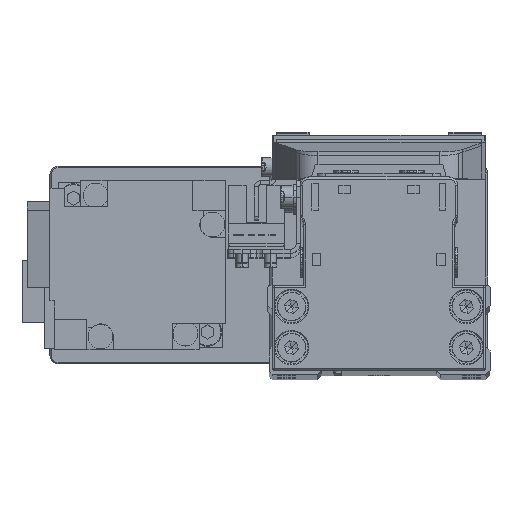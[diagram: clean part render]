
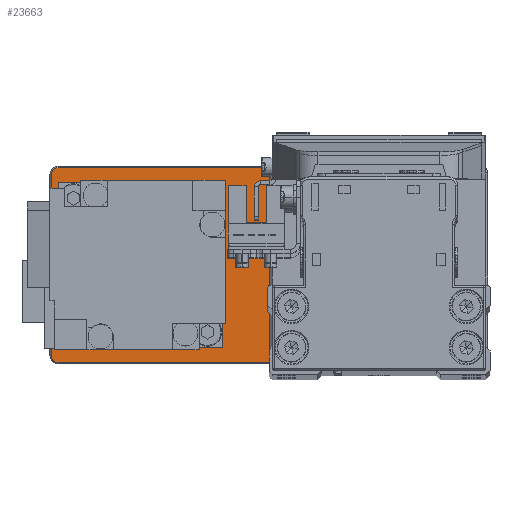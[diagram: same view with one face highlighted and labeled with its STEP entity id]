
A CAD part, top view. The second image highlights one B-rep face of the part: STEP entity #23663.
In plain terms, the highlighted planar face has unit normal (0, 0, 1).
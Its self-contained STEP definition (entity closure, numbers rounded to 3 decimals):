
#716 = VECTOR ( 'NONE', #14562, 1000. ) ;
#1087 = EDGE_LOOP ( 'NONE', ( #32239, #14042 ) ) ;
#1215 = CIRCLE ( 'NONE', #24022, 12.8 ) ;
#1564 = VERTEX_POINT ( 'NONE', #37279 ) ;
#2050 = AXIS2_PLACEMENT_3D ( 'NONE', #7687, #20125, #32577 ) ;
#2124 = CARTESIAN_POINT ( 'NONE',  ( -50., 23.7, 5. ) ) ;
#2258 = DIRECTION ( 'NONE',  ( 0., 0., -1. ) ) ;
#2527 = ORIENTED_EDGE ( 'NONE', *, *, #38176, .T. ) ;
#2844 = ORIENTED_EDGE ( 'NONE', *, *, #24971, .T. ) ;
#2878 = DIRECTION ( 'NONE',  ( 0., 0., -1. ) ) ;
#3231 = EDGE_CURVE ( 'NONE', #15359, #9559, #30073, .T. ) ;
#3291 = CARTESIAN_POINT ( 'NONE',  ( -50., 23.7, 5. ) ) ;
#3458 = CIRCLE ( 'NONE', #26284, 10.3 ) ;
#3985 = DIRECTION ( 'NONE',  ( 0., 0., -1. ) ) ;
#4027 = AXIS2_PLACEMENT_3D ( 'NONE', #5597, #18020, #30469 ) ;
#4574 = VERTEX_POINT ( 'NONE', #35591 ) ;
#4837 = VERTEX_POINT ( 'NONE', #31051 ) ;
#4911 = DIRECTION ( 'NONE',  ( 1., 0., 0. ) ) ;
#5218 = VECTOR ( 'NONE', #22832, 1000. ) ;
#5401 = CIRCLE ( 'NONE', #10627, 1.7 ) ;
#5597 = CARTESIAN_POINT ( 'NONE',  ( 50., 22., 5. ) ) ;
#6501 = AXIS2_PLACEMENT_3D ( 'NONE', #30831, #2878, #15306 ) ;
#7119 = VECTOR ( 'NONE', #21699, 1000. ) ;
#7327 = EDGE_CURVE ( 'NONE', #4574, #15359, #21609, .T. ) ;
#7687 = CARTESIAN_POINT ( 'NONE',  ( 0., 0., 5. ) ) ;
#7704 = VERTEX_POINT ( 'NONE', #20908 ) ;
#7711 = CIRCLE ( 'NONE', #12919, 1.7 ) ;
#7861 = DIRECTION ( 'NONE',  ( 0., 0., 1. ) ) ;
#9019 = VECTOR ( 'NONE', #39445, 1000. ) ;
#9358 = CARTESIAN_POINT ( 'NONE',  ( -17.7, 0., 5. ) ) ;
#9559 = VERTEX_POINT ( 'NONE', #3291 ) ;
#10366 = CARTESIAN_POINT ( 'NONE',  ( 51.7, 22., 5. ) ) ;
#10627 = AXIS2_PLACEMENT_3D ( 'NONE', #35798, #7861, #20300 ) ;
#10765 = FACE_BOUND ( 'NONE', #1087, .T. ) ;
#11611 = CIRCLE ( 'NONE', #34411, 12.8 ) ;
#12162 = ORIENTED_EDGE ( 'NONE', *, *, #19419, .T. ) ;
#12408 = DIRECTION ( 'NONE',  ( 1., 0., 0. ) ) ;
#12919 = AXIS2_PLACEMENT_3D ( 'NONE', #13236, #18479, #30924 ) ;
#13236 = CARTESIAN_POINT ( 'NONE',  ( -50., 22., 5. ) ) ;
#13499 = EDGE_CURVE ( 'NONE', #32308, #21364, #1215, .T. ) ;
#14042 = ORIENTED_EDGE ( 'NONE', *, *, #26108, .T. ) ;
#14555 = LINE ( 'NONE', #27017, #9019 ) ;
#14562 = DIRECTION ( 'NONE',  ( -1., 0., 0. ) ) ;
#14691 = DIRECTION ( 'NONE',  ( 1., 0., 0. ) ) ;
#15306 = DIRECTION ( 'NONE',  ( 1., 0., 0. ) ) ;
#15359 = VERTEX_POINT ( 'NONE', #33749 ) ;
#15445 = LINE ( 'NONE', #27915, #7119 ) ;
#16420 = DIRECTION ( 'NONE',  ( 1., 0., 0. ) ) ;
#16868 = AXIS2_PLACEMENT_3D ( 'NONE', #27907, #25937, #12408 ) ;
#17452 = EDGE_CURVE ( 'NONE', #23515, #24932, #3458, .T. ) ;
#18020 = DIRECTION ( 'NONE',  ( 0., 0., 1. ) ) ;
#18067 = ORIENTED_EDGE ( 'NONE', *, *, #7327, .T. ) ;
#18479 = DIRECTION ( 'NONE',  ( 0., 0., 1. ) ) ;
#18853 = CARTESIAN_POINT ( 'NONE',  ( 50., -23.7, 5. ) ) ;
#19144 = ORIENTED_EDGE ( 'NONE', *, *, #30209, .T. ) ;
#19419 = EDGE_CURVE ( 'NONE', #9559, #7704, #7711, .T. ) ;
#20125 = DIRECTION ( 'NONE',  ( 0., 0., 1. ) ) ;
#20300 = DIRECTION ( 'NONE',  ( 1., 0., 0. ) ) ;
#20435 = CARTESIAN_POINT ( 'NONE',  ( -28., 0., 5. ) ) ;
#20521 = ORIENTED_EDGE ( 'NONE', *, *, #29022, .T. ) ;
#20908 = CARTESIAN_POINT ( 'NONE',  ( -51.7, 22., 5. ) ) ;
#21364 = VERTEX_POINT ( 'NONE', #35962 ) ;
#21609 = CIRCLE ( 'NONE', #4027, 1.7 ) ;
#21699 = DIRECTION ( 'NONE',  ( 0., -1., 0. ) ) ;
#22832 = DIRECTION ( 'NONE',  ( 0., 1., 0. ) ) ;
#23225 = FACE_OUTER_BOUND ( 'NONE', #37513, .T. ) ;
#23515 = VERTEX_POINT ( 'NONE', #9358 ) ;
#23547 = ORIENTED_EDGE ( 'NONE', *, *, #35625, .T. ) ;
#23663 = ADVANCED_FACE ( 'NONE', ( #38724, #10765, #23225 ), #35636, .T. ) ;
#24022 = AXIS2_PLACEMENT_3D ( 'NONE', #30223, #2258, #14691 ) ;
#24104 = CIRCLE ( 'NONE', #6501, 10.3 ) ;
#24403 = VERTEX_POINT ( 'NONE', #28574 ) ;
#24932 = VERTEX_POINT ( 'NONE', #38120 ) ;
#24971 = EDGE_CURVE ( 'NONE', #24403, #4574, #38306, .T. ) ;
#25737 = ORIENTED_EDGE ( 'NONE', *, *, #3231, .T. ) ;
#25937 = DIRECTION ( 'NONE',  ( 0., 0., 1. ) ) ;
#26108 = EDGE_CURVE ( 'NONE', #24932, #23515, #24104, .T. ) ;
#26284 = AXIS2_PLACEMENT_3D ( 'NONE', #20435, #32870, #4911 ) ;
#26383 = EDGE_LOOP ( 'NONE', ( #30801, #23547 ) ) ;
#27017 = CARTESIAN_POINT ( 'NONE',  ( 50., -23.7, 5. ) ) ;
#27907 = CARTESIAN_POINT ( 'NONE',  ( -50., -22., 5. ) ) ;
#27915 = CARTESIAN_POINT ( 'NONE',  ( -51.7, -22., 5. ) ) ;
#28574 = CARTESIAN_POINT ( 'NONE',  ( 51.7, -22., 5. ) ) ;
#29022 = EDGE_CURVE ( 'NONE', #32341, #24403, #5401, .T. ) ;
#30073 = LINE ( 'NONE', #2124, #716 ) ;
#30209 = EDGE_CURVE ( 'NONE', #7704, #4837, #15445, .T. ) ;
#30223 = CARTESIAN_POINT ( 'NONE',  ( 30., 0., 5. ) ) ;
#30469 = DIRECTION ( 'NONE',  ( 1., 0., 0. ) ) ;
#30801 = ORIENTED_EDGE ( 'NONE', *, *, #13499, .T. ) ;
#30831 = CARTESIAN_POINT ( 'NONE',  ( -28., 0., 5. ) ) ;
#30924 = DIRECTION ( 'NONE',  ( 1., 0., 0. ) ) ;
#31051 = CARTESIAN_POINT ( 'NONE',  ( -51.7, -22., 5. ) ) ;
#31920 = CARTESIAN_POINT ( 'NONE',  ( 30., 0., 5. ) ) ;
#32239 = ORIENTED_EDGE ( 'NONE', *, *, #17452, .T. ) ;
#32308 = VERTEX_POINT ( 'NONE', #34181 ) ;
#32341 = VERTEX_POINT ( 'NONE', #18853 ) ;
#32577 = DIRECTION ( 'NONE',  ( 1., 0., 0. ) ) ;
#32870 = DIRECTION ( 'NONE',  ( 0., 0., -1. ) ) ;
#33738 = ORIENTED_EDGE ( 'NONE', *, *, #35789, .T. ) ;
#33749 = CARTESIAN_POINT ( 'NONE',  ( 50., 23.7, 5. ) ) ;
#34181 = CARTESIAN_POINT ( 'NONE',  ( 42.8, 0., 5. ) ) ;
#34411 = AXIS2_PLACEMENT_3D ( 'NONE', #31920, #3985, #16420 ) ;
#34471 = CIRCLE ( 'NONE', #16868, 1.7 ) ;
#35591 = CARTESIAN_POINT ( 'NONE',  ( 51.7, 22., 5. ) ) ;
#35625 = EDGE_CURVE ( 'NONE', #21364, #32308, #11611, .T. ) ;
#35636 = PLANE ( 'NONE',  #2050 ) ;
#35789 = EDGE_CURVE ( 'NONE', #1564, #32341, #14555, .T. ) ;
#35798 = CARTESIAN_POINT ( 'NONE',  ( 50., -22., 5. ) ) ;
#35962 = CARTESIAN_POINT ( 'NONE',  ( 17.2, 0., 5. ) ) ;
#37279 = CARTESIAN_POINT ( 'NONE',  ( -50., -23.7, 5. ) ) ;
#37513 = EDGE_LOOP ( 'NONE', ( #33738, #20521, #2844, #18067, #25737, #12162, #19144, #2527 ) ) ;
#38120 = CARTESIAN_POINT ( 'NONE',  ( -38.3, 0., 5. ) ) ;
#38176 = EDGE_CURVE ( 'NONE', #4837, #1564, #34471, .T. ) ;
#38306 = LINE ( 'NONE', #10366, #5218 ) ;
#38724 = FACE_BOUND ( 'NONE', #26383, .T. ) ;
#39445 = DIRECTION ( 'NONE',  ( 1., 0., 0. ) ) ;
